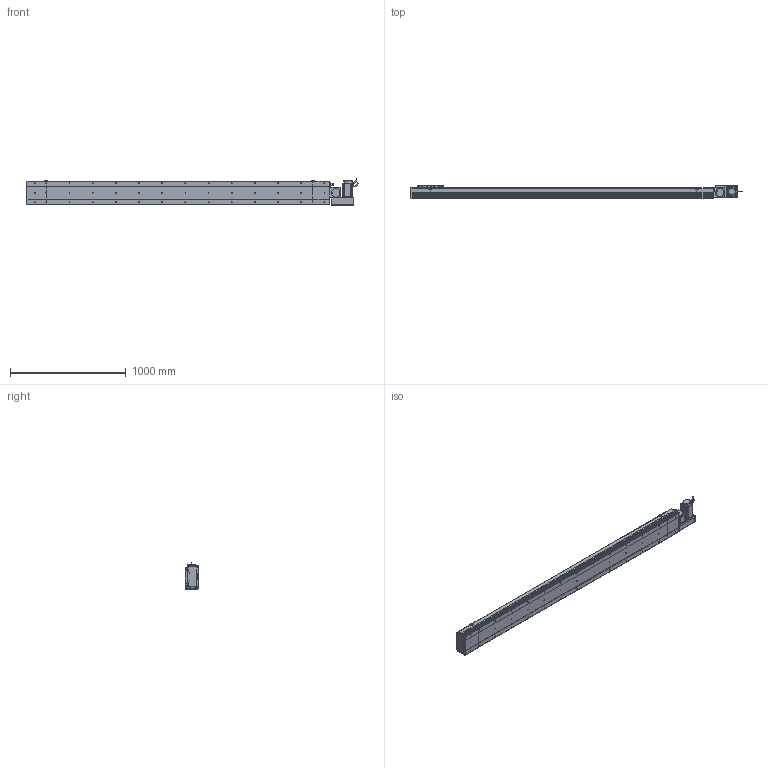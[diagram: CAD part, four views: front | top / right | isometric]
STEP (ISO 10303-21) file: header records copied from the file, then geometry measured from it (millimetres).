
FILE_DESCRIPTION (( 'STEP AP214' ), '1' );
FILE_NAME ('D20 CBH RH S2300.STEP', '2010-06-30T10:07:49', ( 'Conseil Régional Haute-Normandie' ), ( 'Conseil Régional Haute-Normandie' ), 'SwSTEP 2.0', 'SolidWorks 2010', '' );
FILE_SCHEMA (( 'AUTOMOTIVE_DESIGN' ));
Length unit declared in the file: millimetre
Products named in the file (31): Plaque de Bout Tail D20_Default; Couvercle_Default; Corp Tail D20+100_Default; vis M5 L15_Default; Plaque De Serrage D20_Default; Tail D20+100_Default; Couvercle S2300_Default; Corp S2300_Default; Corp D20 S2300_Default; D20 CBH RH S2300; Couvercle RH_Default; Corp Tail D20 RH_Default; Head D20 RH_Default; Rondelle Cache D20 RH_Default; Plaque De Serrage D20 RH_Default; Plaque de Bout Head D20 RH_Default; avant 90BLDC125A-640; Moteur motionking 90BLDC125A-640; Support moteur RH_Default; Conecteur2_Default; codeur 90BLDC125-640; corps 90BLDC125A-640; vis M5 L30_Default; ecrou_Default; Conecteur_Default; Chariot D20_Default; vis M5 L47_Default; Cache Support Moteur RH_Default; Glissiere_Default; Support Chariot D20_Default
Assembly tree (68 placements, depth 4):
  D20 CBH RH S2300
    Tail D20+100_Default
      vis M5 L15_Default  x6
      Corp Tail D20+100_Default
      Couvercle_Default
      Plaque De Serrage D20_Default
      Plaque de Bout Tail D20_Default
    Chariot D20_Default
      vis M5 L15_Default  x8
      Glissiere_Default
      Chariot D20_Default
      Support Chariot D20_Default
    Head D20 RH_Default
      Couvercle RH_Default
      vis M5 L15_Default  x14
      ecrou_Default  x4
      vis M5 L30_Default  x4
      vis M5 L47_Default  x4
      Rondelle Cache D20 RH_Default  x3
      Plaque De Serrage D20 RH_Default
      Moteur motionking 90BLDC125A-640
        Conecteur2_Default
        avant 90BLDC125A-640
        corps 90BLDC125A-640
        Conecteur_Default
        codeur 90BLDC125-640
      Plaque de Bout Head D20 RH_Default
      Support moteur RH_Default
      Corp Tail D20 RH_Default
      Cache Support Moteur RH_Default
    Corp D20 S2300_Default
      Couvercle S2300_Default
      Corp S2300_Default
Bounding box: 2865.45 x 119.5 x 229.7 mm (x, y, z)
Volume: 18819103.4 mm3; surface area: 3656746.9 mm2
Topology: 105 solids, 105 shells, 3838 faces, 9552 edges, 6202 vertices
Faces by surface type: plane 2137, bspline 806, cylinder 724, torus 95, cone 72, sphere 4
Entity records: 160070 total; most frequent: CARTESIAN_POINT 82424, ORIENTED_EDGE 15372, DIRECTION 11734, EDGE_CURVE 7686, VERTEX_POINT 5086, VECTOR 4966, LINE 4966, AXIS2_PLACEMENT_3D 3384
